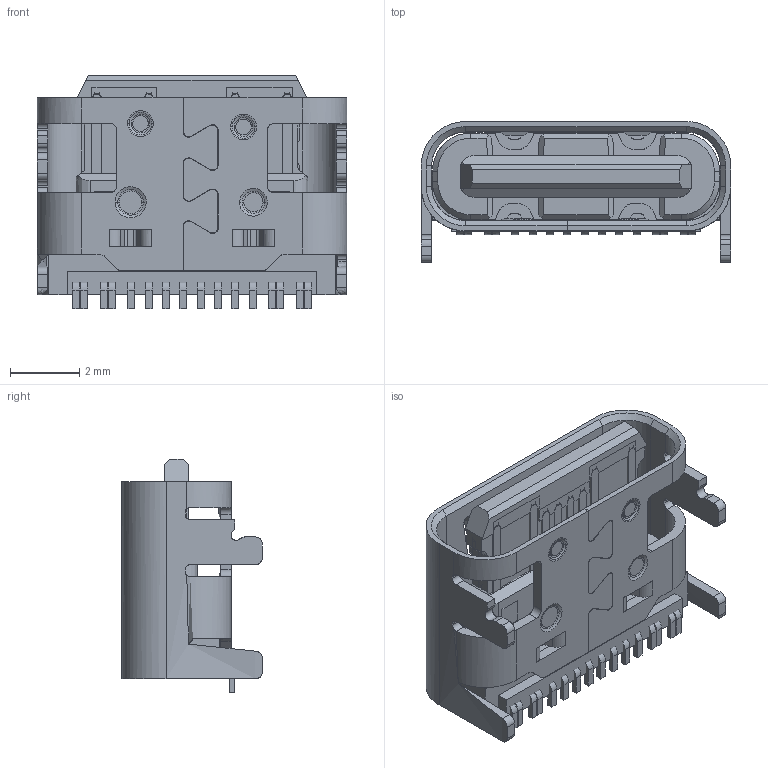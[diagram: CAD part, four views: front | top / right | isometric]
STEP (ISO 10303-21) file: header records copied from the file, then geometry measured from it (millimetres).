
FILE_DESCRIPTION (( 'STEP AP214' ), '1' );
FILE_NAME ('U5453-16PNWT5.7L.STEP', '2026-08-03T05:33:17', ( '' ), ( '' ), 'SwSTEP 2.0', 'SolidWorks 2024', '' );
FILE_SCHEMA (( 'AUTOMOTIVE_DESIGN' ));
Length unit declared in the file: millimetre
Products named in the file (1): U5453-16PNWT5.7L
Bounding box: 8.94 x 4.06 x 6.76 mm (x, y, z)
Surface area: 695.4 mm2 (no closed solid volume)
Topology: 0 solids, 37 shells, 1766 faces, 5814 edges, 3916 vertices
Faces by surface type: bspline 1766
Entity records: 62416 total; most frequent: CARTESIAN_POINT 30048, ORIENTED_EDGE 10566, EDGE_CURVE 5814, B_SPLINE_CURVE_WITH_KNOTS 5235, VERTEX_POINT 3916, EDGE_LOOP 1853, ADVANCED_FACE 1766, FACE_OUTER_BOUND 1766
